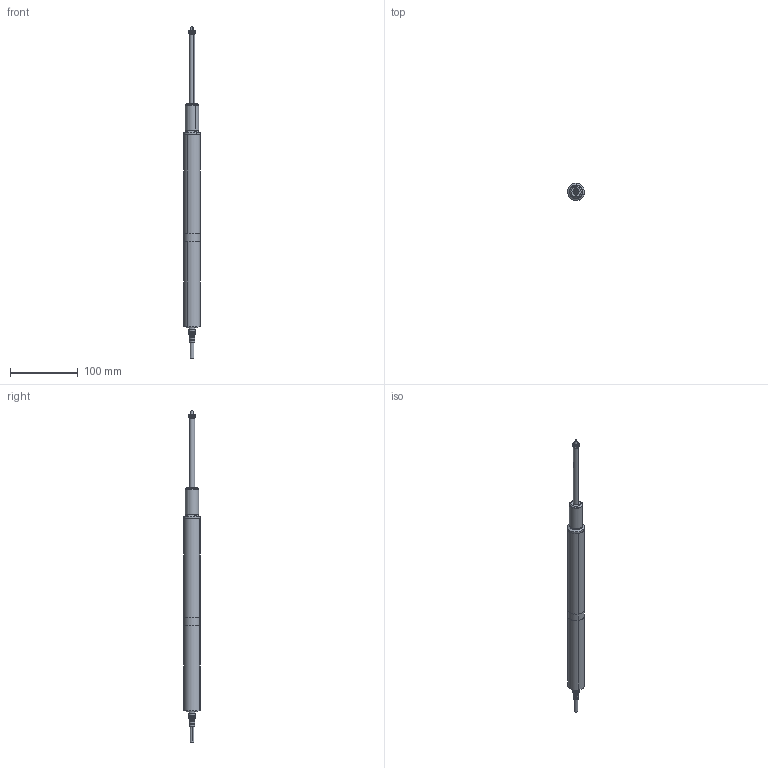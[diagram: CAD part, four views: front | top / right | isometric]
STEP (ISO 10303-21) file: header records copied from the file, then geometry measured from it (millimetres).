
FILE_DESCRIPTION(('CATIA V5 STEP'),'2;1');
FILE_NAME('\\Filmgs01\msdiv\DSS_Free\DXF\DK100\DK100PR5.stp','2011-12-12T05:06:09+00:00',('none'),('none'),'CATIA Version 5 Release 19 SP 6 (IN-10)','CATIA V5 STEP AP214','none');
FILE_SCHEMA(('AUTOMOTIVE_DESIGN { 1 0 10303 214 1 1 1 1 }'));
Length unit declared in the file: millimetre
Products named in the file (1): DK100PR5_080430_AllCATPart
Bounding box: 24.99 x 24.99 x 488.3 mm (x, y, z)
Volume: 160811.9 mm3; surface area: 30227.9 mm2
Topology: 1 solids, 1 shells, 304 faces, 652 edges, 379 vertices
Faces by surface type: cone 130, plane 106, cylinder 66, sphere 2
Entity records: 8059 total; most frequent: CARTESIAN_POINT 2117, ORIENTED_EDGE 1292, DIRECTION 766, EDGE_CURVE 646, AXIS2_PLACEMENT_3D 400, VERTEX_POINT 379, EDGE_LOOP 339, ADVANCED_FACE 304
